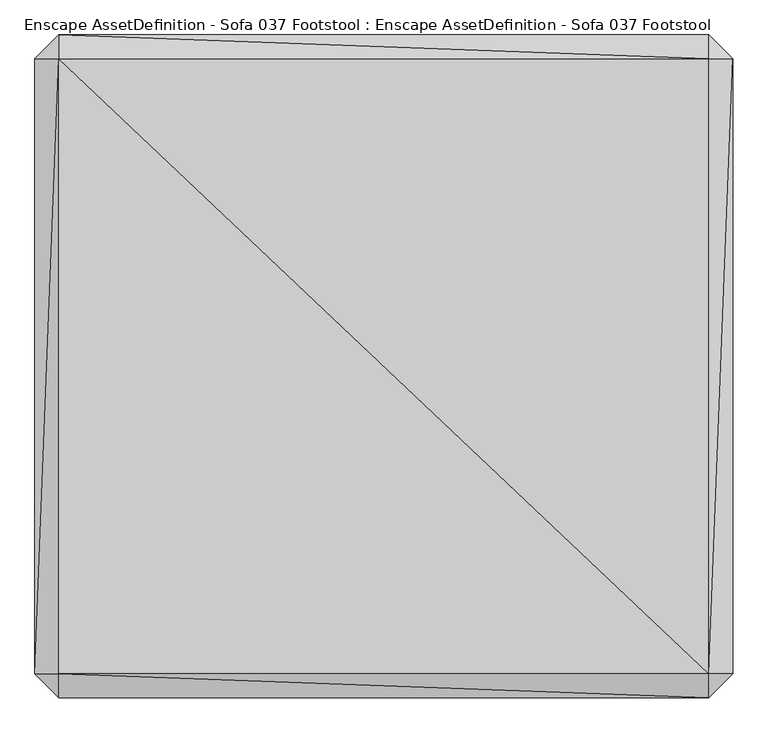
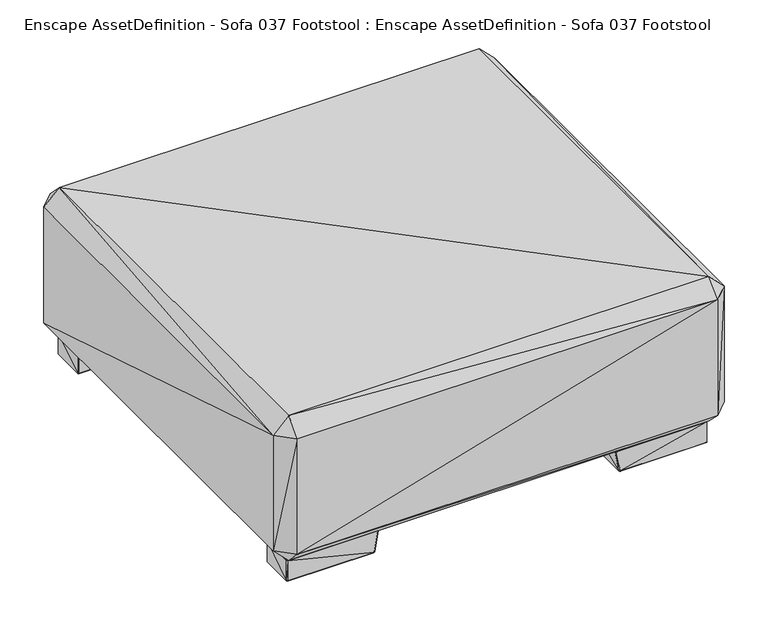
"""IFC4 building model written with IfcOpenShell, lengths in millimetres: geographic element geometry, Enscape AssetDefinition - Sofa 037 Footstool : Enscape AssetDefinition - Sofa 037 Footstool."""

from ifc_helpers import new_model, si_unit, origin, place, context, project, spatial, faceted_brep, source, transform, mapped, element, save


def enscape_assetdefinition_sofa_037_footstool_enscape_4f601f0b(model_context):
    return source(origin(), model_context, "Body", "Brep", [
        faceted_brep([(495.6962764, 467.1250284, 1.8035716), (495.6962764, 467.1250284, 52.3035713), (495.6962764, 388.0420029, 1.8035716), (493.8927293, 467.1250284, 54.1071445), (493.8927293, 468.9285755, 52.3035713), (493.8927293, 388.0420029, 54.1071445), (495.6962764, 388.0420029, 52.3035713), (493.8927293, 468.9285755, 1.8035716), (493.8927293, 467.1250284, 0.0), (289.8131907, 468.9285755, 1.8035716), (281.396836, 468.9285755, 52.3035713), (290.0891304, 467.1250284, 0.0), (493.8927293, 388.0420029, 0.0), (290.0891304, 388.0420029, 0.0), (287.9888713, 467.1250284, 1.7792231), (279.5644104, 467.1250284, 52.3279198), (281.0712755, 467.1250284, 54.1071445), (287.9888713, 388.0420029, 1.7792231), (279.5644104, 388.0420029, 52.3279198), (281.0712755, 388.0420029, 54.1071445), (281.396836, 386.238426, 52.3035713), (289.8131907, 386.238426, 1.8035716), (493.8927293, 386.238426, 52.3035713), (493.8927293, 386.238426, 1.8035716)], [[[0, 1, 2]], [[3, 1, 4]], [[1, 0, 4]], [[3, 5, 1]], [[2, 1, 6]], [[1, 5, 6]], [[7, 0, 8]], [[0, 2, 8]], [[4, 0, 7]], [[7, 9, 4]], [[4, 9, 10]], [[10, 3, 4]], [[9, 7, 11]], [[11, 7, 8]], [[12, 13, 8]], [[8, 13, 11]], [[8, 2, 12]], [[9, 11, 14]], [[11, 13, 14]], [[9, 14, 10]], [[15, 16, 10]], [[16, 3, 10]], [[10, 14, 15]], [[17, 15, 14]], [[14, 13, 17]], [[18, 15, 17]], [[18, 16, 15]], [[16, 19, 3]], [[19, 16, 18]], [[3, 19, 5]], [[20, 19, 18]], [[20, 5, 19]], [[18, 17, 20]], [[21, 17, 13]], [[20, 17, 21]], [[20, 21, 22]], [[22, 5, 20]], [[22, 6, 5]], [[22, 23, 6]], [[22, 21, 23]], [[21, 13, 23]], [[12, 2, 23]], [[23, 13, 12]], [[6, 23, 2]]]),
        faceted_brep([(498.803854, -504.9999952, 90.2516171), (498.803854, -504.9999952, 378.7869811), (-493.1604564, -504.9999952, 90.2516171), (534.8752737, -468.9285755, 378.7869811), (498.803854, -468.9285755, 414.8584008), (-493.1604564, -468.9285755, 414.8584008), (-493.1604564, -504.9999952, 378.7869811), (498.803854, -468.9285755, 54.18019), (534.8752737, -468.9285755, 90.2516171), (534.8752737, 468.9285755, 378.7869811), (534.8752737, 468.9285755, 90.2516171), (498.803854, 468.9285755, 54.18019), (-493.1604564, -468.9285755, 54.18019), (498.803854, 504.9999952, 90.2516171), (-493.1604564, 468.9285755, 54.18019), (498.803854, 504.9999952, 378.7869811), (498.803854, 468.9285755, 414.8584008), (-493.1604564, 504.9999952, 378.7869811), (-493.1604564, 504.9999952, 90.2516171), (-529.2319059, 468.9285755, 90.2516171), (-529.2319059, 468.9285755, 378.7869811), (-493.1604564, 468.9285755, 414.8584008), (-529.2319059, -468.9285755, 378.7869811), (-529.2319059, -468.9285755, 90.2516171)], [[[0, 1, 2]], [[3, 4, 1]], [[1, 0, 3]], [[4, 5, 1]], [[2, 1, 6]], [[1, 5, 6]], [[0, 7, 8]], [[3, 0, 8]], [[2, 7, 0]], [[8, 9, 3]], [[9, 4, 3]], [[10, 9, 8]], [[7, 11, 8]], [[8, 11, 10]], [[12, 7, 2]], [[12, 11, 7]], [[10, 11, 13]], [[11, 14, 13]], [[14, 11, 12]], [[9, 10, 15]], [[15, 10, 13]], [[15, 16, 9]], [[16, 4, 9]], [[13, 17, 15]], [[17, 16, 15]], [[18, 17, 13]], [[13, 14, 18]], [[18, 14, 19]], [[14, 12, 19]], [[17, 18, 20]], [[20, 18, 19]], [[20, 21, 17]], [[21, 16, 17]], [[16, 21, 4]], [[4, 21, 5]], [[5, 21, 22]], [[22, 21, 20]], [[19, 22, 20]], [[23, 22, 19]], [[19, 12, 23]], [[22, 6, 5]], [[23, 6, 22]], [[23, 12, 2]], [[2, 6, 23]]]),
        faceted_brep([(493.8927293, -467.5560296, 1.8035716), (493.8927293, -467.5560296, 52.3035713), (289.8131907, -467.5560296, 1.8035716), (493.8927293, -465.7524824, 54.1071445), (495.6962764, -465.7524824, 52.3035713), (281.396836, -467.5560296, 52.3035713), (290.0891304, -465.7524824, 0.0), (287.9888713, -465.7524824, 1.7792231), (493.8927293, -465.7524824, 0.0), (495.6962764, -465.7524824, 1.8035716), (495.6962764, -386.6694868, 52.3035713), (495.6962764, -386.6694868, 1.8035716), (493.8927293, -386.6694868, 0.0), (290.0891304, -386.6694868, 0.0), (287.9888713, -386.6694868, 1.7792231), (493.8927293, -384.8659396, 1.8035716), (493.8927293, -384.8659396, 52.3035713), (493.8927293, -386.6694868, 54.1071445), (289.8131907, -384.8659396, 1.8035716), (281.396836, -384.8659396, 52.3035713), (279.5644104, -386.6694868, 52.3279198), (281.0712755, -386.6694868, 54.1071445), (281.0712755, -465.7524824, 54.1071445), (279.5644104, -465.7524824, 52.3279198)], [[[0, 1, 2]], [[3, 1, 4]], [[1, 3, 5]], [[2, 1, 5]], [[0, 4, 1]], [[6, 2, 7]], [[2, 5, 7]], [[6, 0, 2]], [[0, 8, 9]], [[9, 4, 0]], [[8, 0, 6]], [[9, 10, 4]], [[10, 3, 4]], [[11, 10, 9]], [[11, 9, 12]], [[12, 9, 8]], [[8, 6, 12]], [[13, 6, 14]], [[12, 6, 13]], [[14, 6, 7]], [[15, 11, 12]], [[13, 15, 12]], [[10, 11, 16]], [[16, 11, 15]], [[17, 10, 16]], [[17, 3, 10]], [[15, 18, 16]], [[16, 19, 17]], [[16, 18, 19]], [[18, 15, 13]], [[13, 14, 18]], [[14, 19, 18]], [[20, 19, 14]], [[7, 20, 14]], [[20, 21, 19]], [[17, 19, 21]], [[21, 3, 17]], [[22, 3, 21]], [[5, 3, 22]], [[22, 21, 23]], [[23, 21, 20]], [[23, 20, 7]], [[7, 5, 23]], [[5, 22, 23]]]),
        faceted_brep([(-494.3760931, -465.7524824, 0.0), (-494.3760931, -386.6694868, 0.0), (-290.5725241, -465.7524824, 0.0), (-496.1796403, -386.6694868, 1.8035716), (-494.3760931, -384.8659396, 1.8035716), (-290.5725241, -386.6694868, 0.0), (-494.3760931, -467.5560296, 1.8035716), (-496.1796403, -465.7524824, 1.8035716), (-496.1796403, -386.6694868, 52.3035713), (-290.2965546, -384.8659396, 1.8035716), (-494.3760931, -384.8659396, 52.3035713), (-288.4722352, -386.6694868, 1.7792231), (-288.4722352, -465.7524824, 1.7792231), (-281.8801701, -384.8659396, 52.3035713), (-494.3760931, -386.6694868, 54.1071445), (-496.1796403, -465.7524824, 52.3035713), (-494.3760931, -465.7524824, 54.1071445), (-281.5546393, -386.6694868, 54.1071445), (-280.0477743, -386.6694868, 52.3279198), (-280.0477743, -465.7524824, 52.3279198), (-281.5546393, -465.7524824, 54.1071445), (-494.3760931, -467.5560296, 52.3035713), (-281.8801701, -467.5560296, 52.3035713), (-290.2965546, -467.5560296, 1.8035716)], [[[0, 1, 2]], [[1, 3, 4]], [[1, 0, 3]], [[2, 1, 5]], [[4, 5, 1]], [[0, 6, 7]], [[0, 2, 6]], [[3, 0, 7]], [[3, 7, 8]], [[8, 4, 3]], [[9, 5, 4]], [[10, 4, 8]], [[10, 9, 4]], [[9, 11, 5]], [[11, 12, 5]], [[5, 12, 2]], [[13, 9, 10]], [[13, 11, 9]], [[10, 8, 14]], [[10, 14, 13]], [[8, 15, 14]], [[8, 7, 15]], [[16, 17, 14]], [[14, 15, 16]], [[13, 14, 17]], [[13, 17, 18]], [[18, 11, 13]], [[18, 12, 11]], [[19, 12, 18]], [[19, 18, 20]], [[20, 18, 17]], [[20, 17, 16]], [[16, 15, 21]], [[21, 22, 16]], [[16, 22, 20]], [[7, 21, 15]], [[6, 21, 7]], [[6, 23, 21]], [[21, 23, 22]], [[19, 20, 22]], [[23, 12, 22]], [[22, 12, 19]], [[23, 2, 12]], [[6, 2, 23]]]),
        faceted_brep([(-496.1796403, 467.1250284, 1.8035716), (-496.1796403, 388.0420029, 1.8035716), (-496.1796403, 467.1250284, 52.3035713), (-494.3760931, 386.238426, 1.8035716), (-494.3760931, 388.0420029, 0.0), (-496.1796403, 388.0420029, 52.3035713), (-494.3760931, 386.238426, 52.3035713), (-494.3760931, 467.1250284, 0.0), (-494.3760931, 468.9285755, 1.8035716), (-290.5725241, 388.0420029, 0.0), (-290.2965546, 386.238426, 1.8035716), (-494.3760931, 388.0420029, 54.1071445), (-281.8801701, 386.238426, 52.3035713), (-494.3760931, 467.1250284, 54.1071445), (-281.5546393, 388.0420029, 54.1071445), (-280.0477743, 388.0420029, 52.3279198), (-288.4722352, 388.0420029, 1.7792231), (-280.0477743, 467.1250284, 52.3279198), (-288.4722352, 467.1250284, 1.7792231), (-290.5725241, 467.1250284, 0.0), (-281.5546393, 467.1250284, 54.1071445), (-281.8801701, 468.9285755, 52.3035713), (-290.2965546, 468.9285755, 1.8035716), (-494.3760931, 468.9285755, 52.3035713)], [[[0, 1, 2]], [[3, 1, 4]], [[5, 1, 6]], [[2, 1, 5]], [[0, 4, 1]], [[6, 1, 3]], [[7, 0, 8]], [[7, 4, 0]], [[2, 8, 0]], [[4, 7, 9]], [[9, 3, 4]], [[3, 10, 6]], [[10, 3, 9]], [[11, 5, 6]], [[6, 12, 11]], [[6, 10, 12]], [[2, 5, 13]], [[13, 5, 11]], [[14, 13, 11]], [[11, 12, 14]], [[15, 14, 12]], [[15, 12, 16]], [[16, 12, 10]], [[9, 16, 10]], [[15, 16, 17]], [[18, 16, 19]], [[17, 16, 18]], [[19, 16, 9]], [[15, 17, 14]], [[20, 13, 14]], [[14, 17, 20]], [[17, 21, 20]], [[18, 21, 17]], [[22, 18, 19]], [[22, 21, 18]], [[22, 19, 8]], [[9, 7, 19]], [[8, 19, 7]], [[21, 22, 23]], [[23, 22, 8]], [[20, 21, 13]], [[13, 21, 23]], [[23, 2, 13]], [[23, 8, 2]]]),
    ])


if __name__ == "__main__":
    model = new_model("IFC4")
    model_context = context("Model", 3, world=origin())
    ifc_project = project(units=[si_unit("LENGTHUNIT", "METRE", prefix="MILLI")], contexts=[model_context])
    site = spatial("IfcSite", under=ifc_project)
    building = spatial("IfcBuilding", under=site)
    placement = place(None, origin())
    enscape_assetdefinition_sofa_037_footstool_enscape_shape = enscape_assetdefinition_sofa_037_footstool_enscape_4f601f0b(model_context)
    element("IfcGeographicElement", 1, ObjectType="Enscape AssetDefinition - Sofa 037 Footstool : Enscape AssetDefinition - Sofa 037 Footstool", at=placement, inside=building, context=model_context, shape_type="MappedRepresentation", body=[
        mapped(enscape_assetdefinition_sofa_037_footstool_enscape_shape, transform((0.0, 0.0, 0.0), x_axis=(1.0, 0.0, 0.0), y_axis=(0.0, 1.0, 0.0), z_axis=(0.0, 0.0, 1.0))),
    ])
    save(model, "model.ifc")
